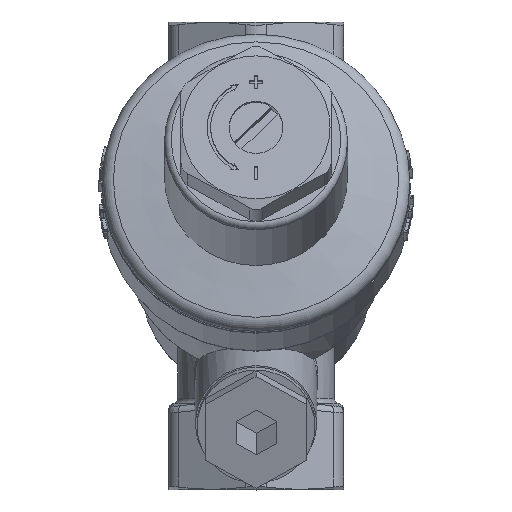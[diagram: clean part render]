
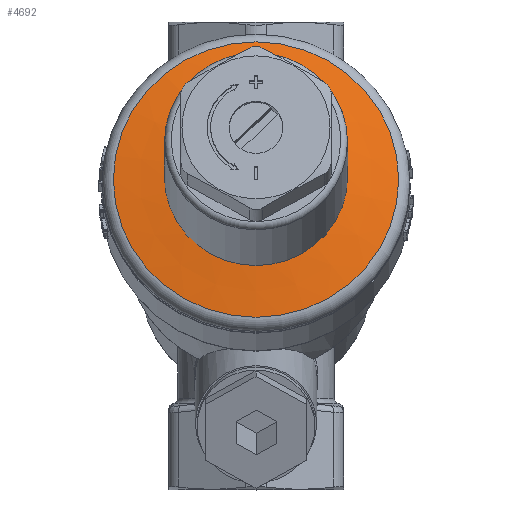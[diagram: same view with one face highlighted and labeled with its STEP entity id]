
A CAD part, top view. The second image highlights one B-rep face of the part: STEP entity #4692.
In plain terms, the highlighted conical face has half-angle 80 degrees and reference radius 17.399 mm.
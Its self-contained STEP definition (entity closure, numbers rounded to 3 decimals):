
#4692=ADVANCED_FACE('',(#11170,#11172),#11174,.T.);
#11170=FACE_OUTER_BOUND('',#11171,.T.);
#11171=EDGE_LOOP('',(#15110));
#11172=FACE_OUTER_BOUND('',#11173,.T.);
#11173=EDGE_LOOP('',(#15111));
#11174=CONICAL_SURFACE('',#11175,17.399,1.396);
#11175=AXIS2_PLACEMENT_3D('',#11176,#11177,#11178);
#11176=CARTESIAN_POINT('',(0.,11.456,42.753));
#11177=DIRECTION('',(0.,-0.259,-0.966));
#11178=DIRECTION('',(0.,-0.966,0.259));
#15110=ORIENTED_EDGE('',*,*,#16781,.T.);
#15111=ORIENTED_EDGE('',*,*,#16850,.F.);
#16781=EDGE_CURVE('',#19248,#19248,#19249,.T.);
#16850=EDGE_CURVE('',#19344,#19344,#19345,.T.);
#19248=VERTEX_POINT('',#33907);
#19249=CIRCLE('',#33908,21.197);
#19344=VERTEX_POINT('',#34293);
#19345=CIRCLE('',#34294,13.6);
#33907=CARTESIAN_POINT('',(0.,31.757,36.62));
#33908=AXIS2_PLACEMENT_3D('',#33909,#33910,#33911);
#33909=CARTESIAN_POINT('',(0.,11.282,42.106));
#33910=DIRECTION('',(0.,0.259,0.966));
#33911=DIRECTION('',(0.,0.966,-0.259));
#34293=CARTESIAN_POINT('',(0.,24.766,39.88));
#34294=AXIS2_PLACEMENT_3D('',#34295,#34296,#34297);
#34295=CARTESIAN_POINT('',(0.,11.629,43.4));
#34296=DIRECTION('',(0.,0.259,0.966));
#34297=DIRECTION('',(0.,0.966,-0.259));
